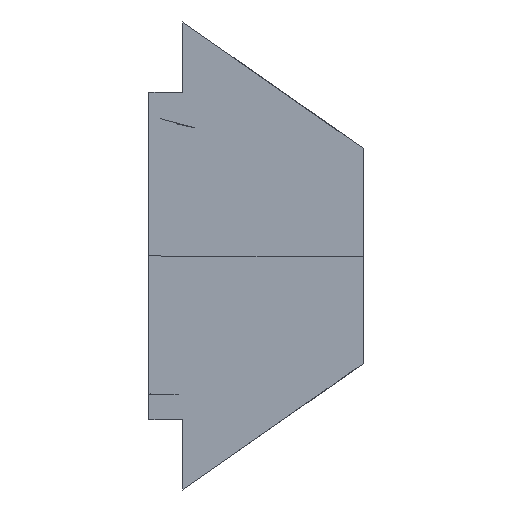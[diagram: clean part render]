
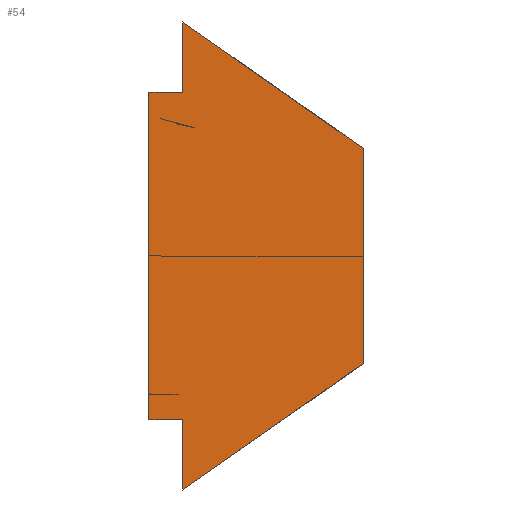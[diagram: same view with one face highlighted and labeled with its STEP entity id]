
A CAD part, left-side view. The second image highlights one B-rep face of the part: STEP entity #54.
In plain terms, the highlighted planar face has unit normal (-1, 0, 0) as drawn and (0, 1, 0) by its records, which use the part's own axes.
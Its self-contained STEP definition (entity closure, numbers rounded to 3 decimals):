
#54=ADVANCED_FACE('',(#67),#516,.T.);
#67=FACE_OUTER_BOUND('',#81,.T.);
#81=EDGE_LOOP('',(#132,#133,#134,#135,#136,#137,#138,#139));
#132=ORIENTED_EDGE('',*,*,#347,.F.);
#133=ORIENTED_EDGE('',*,*,#354,.F.);
#134=ORIENTED_EDGE('',*,*,#359,.F.);
#135=ORIENTED_EDGE('',*,*,#362,.F.);
#136=ORIENTED_EDGE('',*,*,#365,.F.);
#137=ORIENTED_EDGE('',*,*,#368,.F.);
#138=ORIENTED_EDGE('',*,*,#373,.F.);
#139=ORIENTED_EDGE('',*,*,#375,.F.);
#167=PCURVE('',#507,#239);
#174=PCURVE('',#508,#246);
#180=PCURVE('',#509,#252);
#184=PCURVE('',#510,#256);
#188=PCURVE('',#511,#260);
#192=PCURVE('',#512,#264);
#198=PCURVE('',#513,#270);
#202=PCURVE('',#514,#274);
#212=PCURVE('',#516,#284);
#213=PCURVE('',#516,#285);
#214=PCURVE('',#516,#286);
#215=PCURVE('',#516,#287);
#216=PCURVE('',#516,#288);
#217=PCURVE('',#516,#289);
#218=PCURVE('',#516,#290);
#219=PCURVE('',#516,#291);
#239=DEFINITIONAL_REPRESENTATION('',(#386),#1068);
#246=DEFINITIONAL_REPRESENTATION('',(#398),#1068);
#252=DEFINITIONAL_REPRESENTATION('',(#409),#1068);
#256=DEFINITIONAL_REPRESENTATION('',(#416),#1068);
#260=DEFINITIONAL_REPRESENTATION('',(#423),#1068);
#264=DEFINITIONAL_REPRESENTATION('',(#430),#1068);
#270=DEFINITIONAL_REPRESENTATION('',(#439),#1068);
#274=DEFINITIONAL_REPRESENTATION('',(#445),#1068);
#284=DEFINITIONAL_REPRESENTATION('',(#456),#1068);
#285=DEFINITIONAL_REPRESENTATION('',(#457),#1068);
#286=DEFINITIONAL_REPRESENTATION('',(#458),#1068);
#287=DEFINITIONAL_REPRESENTATION('',(#459),#1068);
#288=DEFINITIONAL_REPRESENTATION('',(#460),#1068);
#289=DEFINITIONAL_REPRESENTATION('',(#461),#1068);
#290=DEFINITIONAL_REPRESENTATION('',(#462),#1068);
#291=DEFINITIONAL_REPRESENTATION('',(#463),#1068);
#311=SURFACE_CURVE('',#385,(#167,#212),.PCURVE_S1.);
#318=SURFACE_CURVE('',#397,(#174,#213),.PCURVE_S1.);
#323=SURFACE_CURVE('',#408,(#180,#214),.PCURVE_S1.);
#326=SURFACE_CURVE('',#415,(#184,#215),.PCURVE_S1.);
#329=SURFACE_CURVE('',#422,(#188,#216),.PCURVE_S1.);
#332=SURFACE_CURVE('',#429,(#192,#217),.PCURVE_S1.);
#337=SURFACE_CURVE('',#438,(#198,#218),.PCURVE_S1.);
#339=SURFACE_CURVE('',#444,(#202,#219),.PCURVE_S1.);
#347=EDGE_CURVE('',#483,#484,#311,.T.);
#354=EDGE_CURVE('',#486,#483,#318,.T.);
#359=EDGE_CURVE('',#488,#486,#323,.T.);
#362=EDGE_CURVE('',#490,#488,#326,.T.);
#365=EDGE_CURVE('',#492,#490,#329,.T.);
#368=EDGE_CURVE('',#494,#492,#332,.T.);
#373=EDGE_CURVE('',#496,#494,#337,.T.);
#375=EDGE_CURVE('',#484,#496,#339,.T.);
#385=B_SPLINE_CURVE_WITH_KNOTS('',1,(#714,#715),.UNSPECIFIED.,.F.,.F.,(2,
2),(0.,3.906),.UNSPECIFIED.);
#386=B_SPLINE_CURVE_WITH_KNOTS('',1,(#716,#717),.UNSPECIFIED.,.F.,.F.,(2,
2),(0.,3.906),.UNSPECIFIED.);
#397=B_SPLINE_CURVE_WITH_KNOTS('',1,(#754,#755),.UNSPECIFIED.,.F.,.F.,(2,
2),(-3.819,0.),.UNSPECIFIED.);
#398=B_SPLINE_CURVE_WITH_KNOTS('',1,(#756,#757),.UNSPECIFIED.,.F.,.F.,(2,
2),(-3.819,0.),.UNSPECIFIED.);
#408=B_SPLINE_CURVE_WITH_KNOTS('',1,(#806,#807),.UNSPECIFIED.,.F.,.F.,(2,
2),(-7.725,-3.819),.UNSPECIFIED.);
#409=B_SPLINE_CURVE_WITH_KNOTS('',1,(#808,#809),.UNSPECIFIED.,.F.,.F.,(2,
2),(-7.725,-3.819),.UNSPECIFIED.);
#415=B_SPLINE_CURVE_WITH_KNOTS('',1,(#820,#821),.UNSPECIFIED.,.F.,.F.,(2,
2),(-8.975,-7.725),.UNSPECIFIED.);
#416=B_SPLINE_CURVE_WITH_KNOTS('',1,(#822,#823),.UNSPECIFIED.,.F.,.F.,(2,
2),(-8.975,-7.725),.UNSPECIFIED.);
#422=B_SPLINE_CURVE_WITH_KNOTS('',1,(#834,#835),.UNSPECIFIED.,.F.,.F.,(2,
2),(-9.575,-8.975),.UNSPECIFIED.);
#423=B_SPLINE_CURVE_WITH_KNOTS('',1,(#836,#837),.UNSPECIFIED.,.F.,.F.,(2,
2),(-9.575,-8.975),.UNSPECIFIED.);
#429=B_SPLINE_CURVE_WITH_KNOTS('',1,(#848,#849),.UNSPECIFIED.,.F.,.F.,(2,
2),(-15.375,-9.575),.UNSPECIFIED.);
#430=B_SPLINE_CURVE_WITH_KNOTS('',1,(#850,#851),.UNSPECIFIED.,.F.,.F.,(2,
2),(-15.375,-9.575),.UNSPECIFIED.);
#438=B_SPLINE_CURVE_WITH_KNOTS('',1,(#922,#923),.UNSPECIFIED.,.F.,.F.,(2,
2),(-15.975,-15.375),.UNSPECIFIED.);
#439=B_SPLINE_CURVE_WITH_KNOTS('',1,(#924,#925),.UNSPECIFIED.,.F.,.F.,(2,
2),(-15.975,-15.375),.UNSPECIFIED.);
#444=B_SPLINE_CURVE_WITH_KNOTS('',1,(#934,#935),.UNSPECIFIED.,.F.,.F.,(2,
2),(-17.225,-15.975),.UNSPECIFIED.);
#445=B_SPLINE_CURVE_WITH_KNOTS('',1,(#936,#937),.UNSPECIFIED.,.F.,.F.,(2,
2),(-17.225,-15.975),.UNSPECIFIED.);
#456=B_SPLINE_CURVE_WITH_KNOTS('',1,(#958,#959),.UNSPECIFIED.,.F.,.F.,(2,
2),(0.,3.906),.UNSPECIFIED.);
#457=B_SPLINE_CURVE_WITH_KNOTS('',1,(#960,#961),.UNSPECIFIED.,.F.,.F.,(2,
2),(-3.819,0.),.UNSPECIFIED.);
#458=B_SPLINE_CURVE_WITH_KNOTS('',1,(#962,#963),.UNSPECIFIED.,.F.,.F.,(2,
2),(-7.725,-3.819),.UNSPECIFIED.);
#459=B_SPLINE_CURVE_WITH_KNOTS('',1,(#964,#965),.UNSPECIFIED.,.F.,.F.,(2,
2),(-8.975,-7.725),.UNSPECIFIED.);
#460=B_SPLINE_CURVE_WITH_KNOTS('',1,(#966,#967),.UNSPECIFIED.,.F.,.F.,(2,
2),(-9.575,-8.975),.UNSPECIFIED.);
#461=B_SPLINE_CURVE_WITH_KNOTS('',1,(#968,#969),.UNSPECIFIED.,.F.,.F.,(2,
2),(-15.375,-9.575),.UNSPECIFIED.);
#462=B_SPLINE_CURVE_WITH_KNOTS('',1,(#970,#971),.UNSPECIFIED.,.F.,.F.,(2,
2),(-15.975,-15.375),.UNSPECIFIED.);
#463=B_SPLINE_CURVE_WITH_KNOTS('',1,(#972,#973),.UNSPECIFIED.,.F.,.F.,(2,
2),(-17.225,-15.975),.UNSPECIFIED.);
#483=VERTEX_POINT('',#654);
#484=VERTEX_POINT('',#655);
#486=VERTEX_POINT('',#657);
#488=VERTEX_POINT('',#659);
#490=VERTEX_POINT('',#661);
#492=VERTEX_POINT('',#663);
#494=VERTEX_POINT('',#665);
#496=VERTEX_POINT('',#667);
#507=PLANE('',#562);
#508=PLANE('',#563);
#509=PLANE('',#564);
#510=PLANE('',#565);
#511=PLANE('',#566);
#512=PLANE('',#567);
#513=PLANE('',#568);
#514=PLANE('',#569);
#516=PLANE('',#571);
#562=AXIS2_PLACEMENT_3D('',#606,#582,$);
#563=AXIS2_PLACEMENT_3D('',#607,#583,$);
#564=AXIS2_PLACEMENT_3D('',#608,#584,$);
#565=AXIS2_PLACEMENT_3D('',#609,#585,$);
#566=AXIS2_PLACEMENT_3D('',#610,#586,$);
#567=AXIS2_PLACEMENT_3D('',#611,#587,$);
#568=AXIS2_PLACEMENT_3D('',#612,#588,$);
#569=AXIS2_PLACEMENT_3D('',#613,#589,$);
#571=AXIS2_PLACEMENT_3D('',#651,#591,$);
#582=DIRECTION('',(-0.574,0.,-0.819));
#583=DIRECTION('',(-1.,0.,0.));
#584=DIRECTION('',(-0.574,0.,0.819));
#585=DIRECTION('',(1.,0.,0.));
#586=DIRECTION('',(0.,0.,1.));
#587=DIRECTION('',(1.,0.,0.));
#588=DIRECTION('',(0.,0.,-1.));
#589=DIRECTION('',(1.,0.,0.));
#591=DIRECTION('',(0.,1.,0.));
#606=CARTESIAN_POINT('',(-0.6,-11.,-4.15));
#607=CARTESIAN_POINT('',(-3.8,-11.,-1.909));
#608=CARTESIAN_POINT('',(-3.8,-11.,1.909));
#609=CARTESIAN_POINT('',(-0.6,-11.,4.15));
#610=CARTESIAN_POINT('',(-0.6,-11.,2.9));
#611=CARTESIAN_POINT('',(0.,-11.,2.9));
#612=CARTESIAN_POINT('',(0.,-11.,-2.9));
#613=CARTESIAN_POINT('',(-0.6,-11.,-2.9));
#651=CARTESIAN_POINT('',(-4.275,6.,5.188));
#654=CARTESIAN_POINT('',(-3.8,6.,-1.909));
#655=CARTESIAN_POINT('',(-0.6,6.,-4.15));
#657=CARTESIAN_POINT('',(-3.8,6.,1.909));
#659=CARTESIAN_POINT('',(-0.6,6.,4.15));
#661=CARTESIAN_POINT('',(-0.6,6.,2.9));
#663=CARTESIAN_POINT('',(0.,6.,2.9));
#665=CARTESIAN_POINT('',(0.,6.,-2.9));
#667=CARTESIAN_POINT('',(-0.6,6.,-2.9));
#714=CARTESIAN_POINT('',(-3.8,6.,-1.909));
#715=CARTESIAN_POINT('',(-0.6,6.,-4.15));
#716=CARTESIAN_POINT('',(0.,17.));
#717=CARTESIAN_POINT('',(-3.906,17.));
#754=CARTESIAN_POINT('',(-3.8,6.,1.909));
#755=CARTESIAN_POINT('',(-3.8,6.,-1.909));
#756=CARTESIAN_POINT('',(3.819,17.));
#757=CARTESIAN_POINT('',(0.,17.));
#806=CARTESIAN_POINT('',(-0.6,6.,4.15));
#807=CARTESIAN_POINT('',(-3.8,6.,1.909));
#808=CARTESIAN_POINT('',(7.725,17.));
#809=CARTESIAN_POINT('',(3.819,17.));
#820=CARTESIAN_POINT('',(-0.6,6.,2.9));
#821=CARTESIAN_POINT('',(-0.6,6.,4.15));
#822=CARTESIAN_POINT('',(8.975,17.));
#823=CARTESIAN_POINT('',(7.725,17.));
#834=CARTESIAN_POINT('',(0.,6.,2.9));
#835=CARTESIAN_POINT('',(-0.6,6.,2.9));
#836=CARTESIAN_POINT('',(9.575,17.));
#837=CARTESIAN_POINT('',(8.975,17.));
#848=CARTESIAN_POINT('',(0.,6.,-2.9));
#849=CARTESIAN_POINT('',(0.,6.,2.9));
#850=CARTESIAN_POINT('',(15.375,17.));
#851=CARTESIAN_POINT('',(9.575,17.));
#922=CARTESIAN_POINT('',(-0.6,6.,-2.9));
#923=CARTESIAN_POINT('',(0.,6.,-2.9));
#924=CARTESIAN_POINT('',(15.975,17.));
#925=CARTESIAN_POINT('',(15.375,17.));
#934=CARTESIAN_POINT('',(-0.6,6.,-4.15));
#935=CARTESIAN_POINT('',(-0.6,6.,-2.9));
#936=CARTESIAN_POINT('',(17.225,17.));
#937=CARTESIAN_POINT('',(15.975,17.));
#958=CARTESIAN_POINT('',(-3.2,-2.241));
#959=CARTESIAN_POINT('',(0.,0.));
#960=CARTESIAN_POINT('',(-3.2,-6.059));
#961=CARTESIAN_POINT('',(-3.2,-2.241));
#962=CARTESIAN_POINT('',(0.,-8.3));
#963=CARTESIAN_POINT('',(-3.2,-6.059));
#964=CARTESIAN_POINT('',(0.,-7.05));
#965=CARTESIAN_POINT('',(0.,-8.3));
#966=CARTESIAN_POINT('',(0.6,-7.05));
#967=CARTESIAN_POINT('',(0.,-7.05));
#968=CARTESIAN_POINT('',(0.6,-1.25));
#969=CARTESIAN_POINT('',(0.6,-7.05));
#970=CARTESIAN_POINT('',(0.,-1.25));
#971=CARTESIAN_POINT('',(0.6,-1.25));
#972=CARTESIAN_POINT('',(0.,0.));
#973=CARTESIAN_POINT('',(0.,-1.25));
#1068=(
GEOMETRIC_REPRESENTATION_CONTEXT(2)
PARAMETRIC_REPRESENTATION_CONTEXT()
REPRESENTATION_CONTEXT('pspace','')
);
